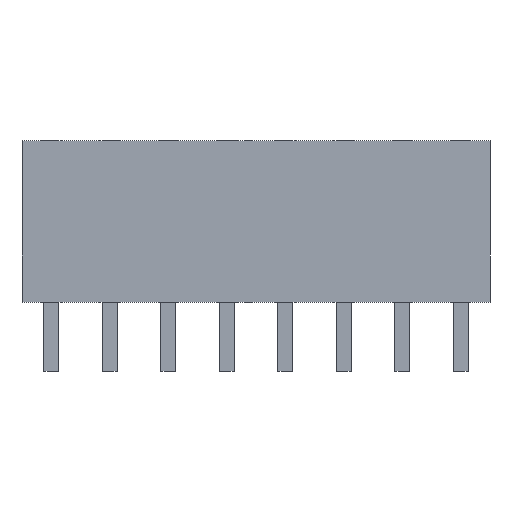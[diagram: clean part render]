
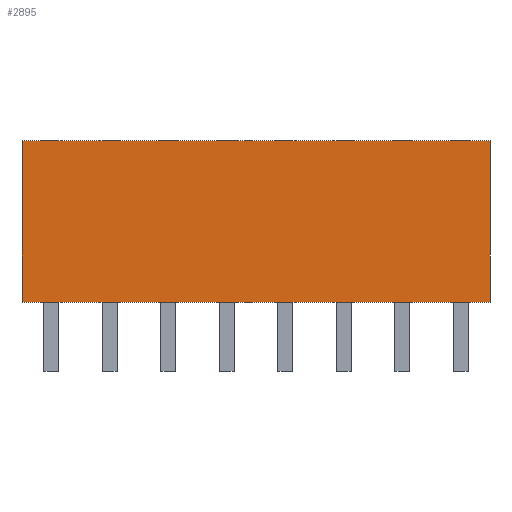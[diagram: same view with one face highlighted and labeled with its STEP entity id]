
A CAD part, left-side view. The second image highlights one B-rep face of the part: STEP entity #2895.
In plain terms, the highlighted planar face has unit normal (-1, 0, 0).
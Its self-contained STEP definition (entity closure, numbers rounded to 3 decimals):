
#2895 = ADVANCED_FACE('',(#2896),#2910,.F.);
#2896 = FACE_BOUND('',#2897,.F.);
#2897 = EDGE_LOOP('',(#2898,#2933,#2961,#2989));
#2898 = ORIENTED_EDGE('',*,*,#2899,.F.);
#2899 = EDGE_CURVE('',#2900,#2902,#2904,.T.);
#2900 = VERTEX_POINT('',#2901);
#2901 = CARTESIAN_POINT('',(-7.62,-10.16,0.));
#2902 = VERTEX_POINT('',#2903);
#2903 = CARTESIAN_POINT('',(-7.62,-10.16,7.));
#2904 = SURFACE_CURVE('',#2905,(#2909,#2921),.PCURVE_S1.);
#2905 = LINE('',#2906,#2907);
#2906 = CARTESIAN_POINT('',(-7.62,-10.16,0.));
#2907 = VECTOR('',#2908,1.);
#2908 = DIRECTION('',(0.,0.,1.));
#2909 = PCURVE('',#2910,#2915);
#2910 = PLANE('',#2911);
#2911 = AXIS2_PLACEMENT_3D('',#2912,#2913,#2914);
#2912 = CARTESIAN_POINT('',(-7.62,-10.16,0.));
#2913 = DIRECTION('',(1.,0.,0.));
#2914 = DIRECTION('',(0.,0.,1.));
#2915 = DEFINITIONAL_REPRESENTATION('',(#2916),#2920);
#2916 = LINE('',#2917,#2918);
#2917 = CARTESIAN_POINT('',(0.,0.));
#2918 = VECTOR('',#2919,1.);
#2919 = DIRECTION('',(1.,0.));
#2920 = ( GEOMETRIC_REPRESENTATION_CONTEXT(2) 
PARAMETRIC_REPRESENTATION_CONTEXT() REPRESENTATION_CONTEXT('2D SPACE',''
  ) );
#2921 = PCURVE('',#2922,#2927);
#2922 = PLANE('',#2923);
#2923 = AXIS2_PLACEMENT_3D('',#2924,#2925,#2926);
#2924 = CARTESIAN_POINT('',(-7.62,-10.16,0.));
#2925 = DIRECTION('',(0.,1.,0.));
#2926 = DIRECTION('',(0.,0.,1.));
#2927 = DEFINITIONAL_REPRESENTATION('',(#2928),#2932);
#2928 = LINE('',#2929,#2930);
#2929 = CARTESIAN_POINT('',(0.,0.));
#2930 = VECTOR('',#2931,1.);
#2931 = DIRECTION('',(1.,0.));
#2932 = ( GEOMETRIC_REPRESENTATION_CONTEXT(2) 
PARAMETRIC_REPRESENTATION_CONTEXT() REPRESENTATION_CONTEXT('2D SPACE',''
  ) );
#2933 = ORIENTED_EDGE('',*,*,#2934,.T.);
#2934 = EDGE_CURVE('',#2900,#2935,#2937,.T.);
#2935 = VERTEX_POINT('',#2936);
#2936 = CARTESIAN_POINT('',(-7.62,10.16,0.));
#2937 = SURFACE_CURVE('',#2938,(#2942,#2949),.PCURVE_S1.);
#2938 = LINE('',#2939,#2940);
#2939 = CARTESIAN_POINT('',(-7.62,-10.16,0.));
#2940 = VECTOR('',#2941,1.);
#2941 = DIRECTION('',(0.,1.,0.));
#2942 = PCURVE('',#2910,#2943);
#2943 = DEFINITIONAL_REPRESENTATION('',(#2944),#2948);
#2944 = LINE('',#2945,#2946);
#2945 = CARTESIAN_POINT('',(0.,0.));
#2946 = VECTOR('',#2947,1.);
#2947 = DIRECTION('',(0.,-1.));
#2948 = ( GEOMETRIC_REPRESENTATION_CONTEXT(2) 
PARAMETRIC_REPRESENTATION_CONTEXT() REPRESENTATION_CONTEXT('2D SPACE',''
  ) );
#2949 = PCURVE('',#2950,#2955);
#2950 = PLANE('',#2951);
#2951 = AXIS2_PLACEMENT_3D('',#2952,#2953,#2954);
#2952 = CARTESIAN_POINT('',(-7.62,-10.16,0.));
#2953 = DIRECTION('',(0.,0.,1.));
#2954 = DIRECTION('',(1.,0.,0.));
#2955 = DEFINITIONAL_REPRESENTATION('',(#2956),#2960);
#2956 = LINE('',#2957,#2958);
#2957 = CARTESIAN_POINT('',(0.,0.));
#2958 = VECTOR('',#2959,1.);
#2959 = DIRECTION('',(0.,1.));
#2960 = ( GEOMETRIC_REPRESENTATION_CONTEXT(2) 
PARAMETRIC_REPRESENTATION_CONTEXT() REPRESENTATION_CONTEXT('2D SPACE',''
  ) );
#2961 = ORIENTED_EDGE('',*,*,#2962,.T.);
#2962 = EDGE_CURVE('',#2935,#2963,#2965,.T.);
#2963 = VERTEX_POINT('',#2964);
#2964 = CARTESIAN_POINT('',(-7.62,10.16,7.));
#2965 = SURFACE_CURVE('',#2966,(#2970,#2977),.PCURVE_S1.);
#2966 = LINE('',#2967,#2968);
#2967 = CARTESIAN_POINT('',(-7.62,10.16,0.));
#2968 = VECTOR('',#2969,1.);
#2969 = DIRECTION('',(0.,0.,1.));
#2970 = PCURVE('',#2910,#2971);
#2971 = DEFINITIONAL_REPRESENTATION('',(#2972),#2976);
#2972 = LINE('',#2973,#2974);
#2973 = CARTESIAN_POINT('',(0.,-20.32));
#2974 = VECTOR('',#2975,1.);
#2975 = DIRECTION('',(1.,0.));
#2976 = ( GEOMETRIC_REPRESENTATION_CONTEXT(2) 
PARAMETRIC_REPRESENTATION_CONTEXT() REPRESENTATION_CONTEXT('2D SPACE',''
  ) );
#2977 = PCURVE('',#2978,#2983);
#2978 = PLANE('',#2979);
#2979 = AXIS2_PLACEMENT_3D('',#2980,#2981,#2982);
#2980 = CARTESIAN_POINT('',(-7.62,10.16,0.));
#2981 = DIRECTION('',(0.,1.,0.));
#2982 = DIRECTION('',(0.,0.,1.));
#2983 = DEFINITIONAL_REPRESENTATION('',(#2984),#2988);
#2984 = LINE('',#2985,#2986);
#2985 = CARTESIAN_POINT('',(0.,0.));
#2986 = VECTOR('',#2987,1.);
#2987 = DIRECTION('',(1.,0.));
#2988 = ( GEOMETRIC_REPRESENTATION_CONTEXT(2) 
PARAMETRIC_REPRESENTATION_CONTEXT() REPRESENTATION_CONTEXT('2D SPACE',''
  ) );
#2989 = ORIENTED_EDGE('',*,*,#2990,.F.);
#2990 = EDGE_CURVE('',#2902,#2963,#2991,.T.);
#2991 = SURFACE_CURVE('',#2992,(#2996,#3003),.PCURVE_S1.);
#2992 = LINE('',#2993,#2994);
#2993 = CARTESIAN_POINT('',(-7.62,-10.16,7.));
#2994 = VECTOR('',#2995,1.);
#2995 = DIRECTION('',(0.,1.,0.));
#2996 = PCURVE('',#2910,#2997);
#2997 = DEFINITIONAL_REPRESENTATION('',(#2998),#3002);
#2998 = LINE('',#2999,#3000);
#2999 = CARTESIAN_POINT('',(7.,0.));
#3000 = VECTOR('',#3001,1.);
#3001 = DIRECTION('',(0.,-1.));
#3002 = ( GEOMETRIC_REPRESENTATION_CONTEXT(2) 
PARAMETRIC_REPRESENTATION_CONTEXT() REPRESENTATION_CONTEXT('2D SPACE',''
  ) );
#3003 = PCURVE('',#3004,#3009);
#3004 = PLANE('',#3005);
#3005 = AXIS2_PLACEMENT_3D('',#3006,#3007,#3008);
#3006 = CARTESIAN_POINT('',(-7.62,-10.16,7.));
#3007 = DIRECTION('',(0.,0.,1.));
#3008 = DIRECTION('',(1.,0.,0.));
#3009 = DEFINITIONAL_REPRESENTATION('',(#3010),#3014);
#3010 = LINE('',#3011,#3012);
#3011 = CARTESIAN_POINT('',(0.,0.));
#3012 = VECTOR('',#3013,1.);
#3013 = DIRECTION('',(0.,1.));
#3014 = ( GEOMETRIC_REPRESENTATION_CONTEXT(2) 
PARAMETRIC_REPRESENTATION_CONTEXT() REPRESENTATION_CONTEXT('2D SPACE',''
  ) );
